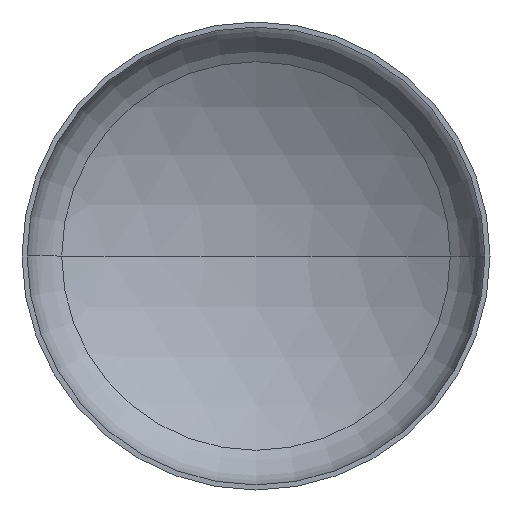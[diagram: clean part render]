
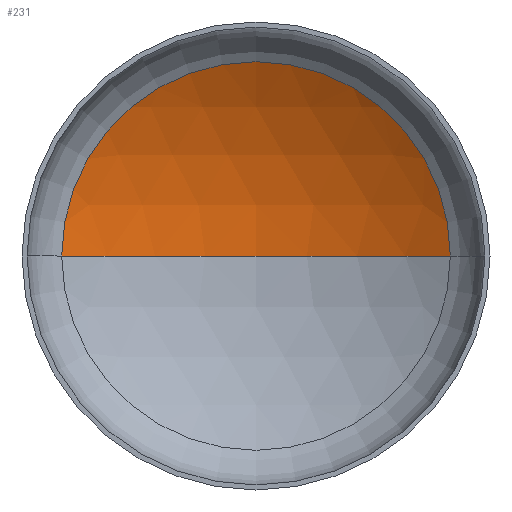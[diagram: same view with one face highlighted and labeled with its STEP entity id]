
A CAD part, front view. The second image highlights one B-rep face of the part: STEP entity #231.
In plain terms, the highlighted spherical face has radius 4400 mm.
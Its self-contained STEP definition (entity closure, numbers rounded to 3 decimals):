
#20 = DIRECTION ( 'NONE',  ( 1., 0., 0. ) ) ;
#27 = DIRECTION ( 'NONE',  ( 0., 0., 1. ) ) ;
#34 = EDGE_LOOP ( 'NONE', ( #339, #215, #115 ) ) ;
#35 = CARTESIAN_POINT ( 'NONE',  ( 0., -2918.75, 0. ) ) ;
#50 = EDGE_CURVE ( 'NONE', #121, #101, #140, .T. ) ;
#62 = EDGE_CURVE ( 'NONE', #144, #121, #375, .T. ) ;
#66 = EDGE_CURVE ( 'NONE', #144, #101, #300, .T. ) ;
#72 = CARTESIAN_POINT ( 'NONE',  ( 0., 1481.25, 0. ) ) ;
#91 = DIRECTION ( 'NONE',  ( 0., 0., -1. ) ) ;
#101 = VERTEX_POINT ( 'NONE', #332 ) ;
#115 = ORIENTED_EDGE ( 'NONE', *, *, #50, .T. ) ;
#121 = VERTEX_POINT ( 'NONE', #122 ) ;
#122 = CARTESIAN_POINT ( 'NONE',  ( 2283.544, 842.291, 0. ) ) ;
#140 = CIRCLE ( 'NONE', #236, 2283.544 ) ;
#144 = VERTEX_POINT ( 'NONE', #72 ) ;
#160 = SPHERICAL_SURFACE ( 'NONE', #203, 4400. ) ;
#188 = DIRECTION ( 'NONE',  ( -1., 0., 0. ) ) ;
#189 = DIRECTION ( 'NONE',  ( 0., 0., -1. ) ) ;
#190 = CARTESIAN_POINT ( 'NONE',  ( 0., -2918.75, 0. ) ) ;
#194 = CARTESIAN_POINT ( 'NONE',  ( 0., 842.291, 0. ) ) ;
#200 = DIRECTION ( 'NONE',  ( 1., 0., 0. ) ) ;
#202 = DIRECTION ( 'NONE',  ( 0., -1., 0. ) ) ;
#203 = AXIS2_PLACEMENT_3D ( 'NONE', #321, #91, #249 ) ;
#215 = ORIENTED_EDGE ( 'NONE', *, *, #62, .T. ) ;
#231 = ADVANCED_FACE ( 'NONE', ( #406 ), #160, .F. ) ;
#236 = AXIS2_PLACEMENT_3D ( 'NONE', #194, #202, #200 ) ;
#249 = DIRECTION ( 'NONE',  ( -1., 0., 0. ) ) ;
#278 = AXIS2_PLACEMENT_3D ( 'NONE', #190, #189, #188 ) ;
#296 = AXIS2_PLACEMENT_3D ( 'NONE', #35, #27, #20 ) ;
#300 = CIRCLE ( 'NONE', #296, 4400. ) ;
#321 = CARTESIAN_POINT ( 'NONE',  ( 0., -2918.75, 0. ) ) ;
#332 = CARTESIAN_POINT ( 'NONE',  ( -2283.544, 842.291, 0. ) ) ;
#339 = ORIENTED_EDGE ( 'NONE', *, *, #66, .F. ) ;
#375 = CIRCLE ( 'NONE', #278, 4400. ) ;
#406 = FACE_OUTER_BOUND ( 'NONE', #34, .T. ) ;
